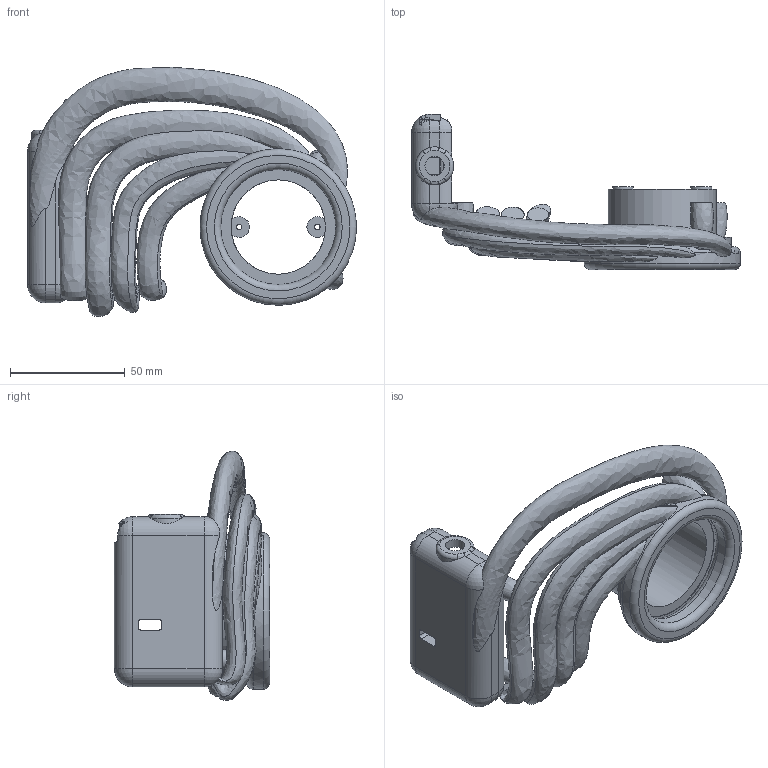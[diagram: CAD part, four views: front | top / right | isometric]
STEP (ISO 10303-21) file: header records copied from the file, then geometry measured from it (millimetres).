
FILE_DESCRIPTION(('Open CASCADE Model'),'2;1');
FILE_NAME('Open CASCADE Shape Model','2026-10-20T15:49:36',('Author'),( 'Open CASCADE'),'Open CASCADE STEP processor 7.8','Open CASCADE 7.8' ,'Unknown');
FILE_SCHEMA(('AUTOMOTIVE_DESIGN { 1 0 10303 214 1 1 1 1 }'));
Length unit declared in the file: millimetre
Products named in the file (1): Open CASCADE STEP translator 7.8 3
Bounding box: 143 x 67.5 x 108.43 mm (x, y, z)
Volume: 122113.6 mm3; surface area: 47136.1 mm2
Topology: 1 solids, 1 shells, 167 faces, 458 edges, 292 vertices
Faces by surface type: plane 77, cylinder 51, bspline 21, sphere 12, torus 6
Full cylindrical faces by diameter (mm): 1.8 x5, 2.4 x2, 8.4 x1, 9 x2, 41 x1, 47 x1, 50 x2, 68 x1
Entity records: 27111 total; most frequent: CARTESIAN_POINT 18943, DIRECTION 1262, ORIENTED_EDGE 904, PCURVE 904, DEFINITIONAL_REPRESENTATION 904, LINE 601, VECTOR 601, B_SPLINE_CURVE_WITH_KNOTS 482
